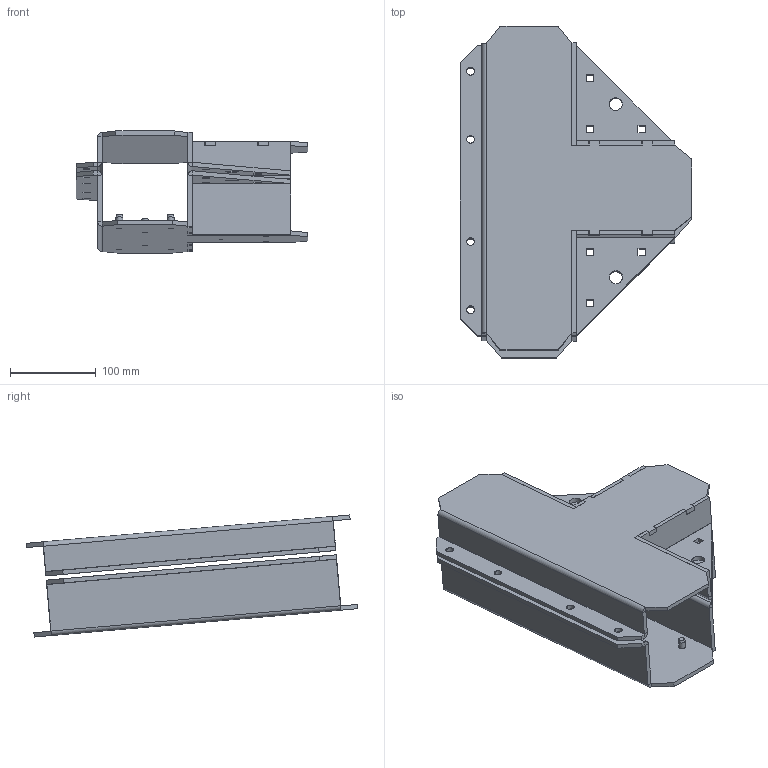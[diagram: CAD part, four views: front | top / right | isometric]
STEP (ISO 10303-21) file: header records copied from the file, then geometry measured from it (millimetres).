
FILE_DESCRIPTION (( 'STEP AP203' ), '1' );
FILE_NAME ('NEW PROJECT-4.STEP', '2025-10-06T07:56:31', ( '' ), ( '' ), 'SwSTEP 2.0', 'SolidWorks 2025', '' );
FILE_SCHEMA (( 'CONFIG_CONTROL_DESIGN' ));
Length unit declared in the file: centimetre
Products named in the file (1): NEW PROJECT-4
Bounding box: 270.5 x 388.14 x 142.7 mm (x, y, z)
Volume: 1130464.4 mm3; surface area: 484897.4 mm2
Topology: 15 solids, 15 shells, 399 faces, 966 edges, 606 vertices
Faces by surface type: plane 279, cylinder 94, cone 18, bspline 8
Entity records: 11985 total; most frequent: CARTESIAN_POINT 2396, ORIENTED_EDGE 1932, DIRECTION 1924, EDGE_CURVE 966, VECTOR 760, LINE 760, VERTEX_POINT 606, AXIS2_PLACEMENT_3D 582
